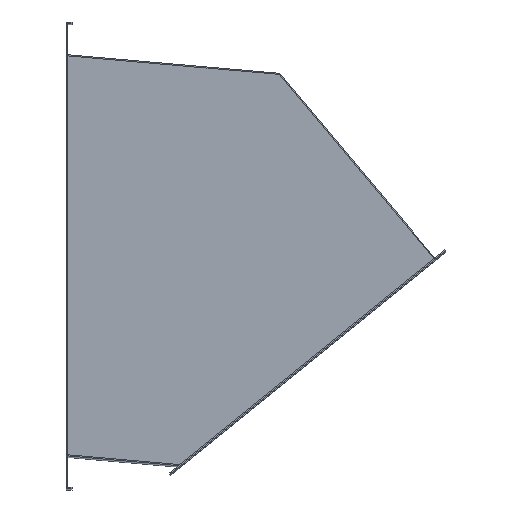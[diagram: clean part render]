
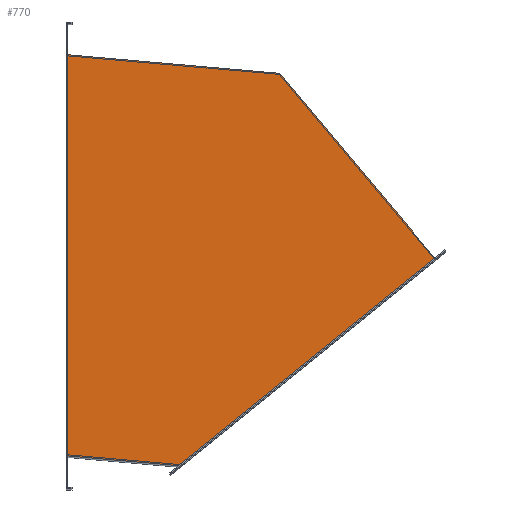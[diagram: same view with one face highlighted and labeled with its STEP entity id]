
A CAD part, top view. The second image highlights one B-rep face of the part: STEP entity #770.
In plain terms, the highlighted planar face has unit normal (0, 0, 1).
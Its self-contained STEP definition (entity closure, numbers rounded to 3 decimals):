
#62=PLANE('',#852);
#100=FACE_OUTER_BOUND('',#152,.T.);
#152=EDGE_LOOP('',(#677,#678,#679,#680,#681));
#206=LINE('',#1181,#284);
#234=LINE('',#1238,#312);
#244=LINE('',#1257,#322);
#245=LINE('',#1259,#323);
#246=LINE('',#1260,#324);
#284=VECTOR('',#978,10.);
#312=VECTOR('',#1024,10.);
#322=VECTOR('',#1044,10.);
#323=VECTOR('',#1045,10.);
#324=VECTOR('',#1046,10.);
#393=VERTEX_POINT('',#1178);
#394=VERTEX_POINT('',#1180);
#413=VERTEX_POINT('',#1235);
#414=VERTEX_POINT('',#1237);
#419=VERTEX_POINT('',#1258);
#478=EDGE_CURVE('',#394,#393,#206,.T.);
#506=EDGE_CURVE('',#414,#413,#234,.T.);
#516=EDGE_CURVE('',#393,#414,#244,.T.);
#517=EDGE_CURVE('',#413,#419,#245,.T.);
#518=EDGE_CURVE('',#419,#394,#246,.T.);
#677=ORIENTED_EDGE('',*,*,#478,.T.);
#678=ORIENTED_EDGE('',*,*,#516,.T.);
#679=ORIENTED_EDGE('',*,*,#506,.T.);
#680=ORIENTED_EDGE('',*,*,#517,.T.);
#681=ORIENTED_EDGE('',*,*,#518,.T.);
#770=ADVANCED_FACE('',(#100),#62,.T.);
#852=AXIS2_PLACEMENT_3D('',#1256,#1042,#1043);
#978=DIRECTION('',(0.,-1.,0.));
#1024=DIRECTION('',(0.777,0.629,0.));
#1042=DIRECTION('center_axis',(0.,0.,1.));
#1043=DIRECTION('ref_axis',(1.,0.,0.));
#1044=DIRECTION('',(0.996,-0.087,0.));
#1045=DIRECTION('',(-0.643,0.766,0.));
#1046=DIRECTION('',(-0.996,0.087,0.));
#1178=CARTESIAN_POINT('',(2.,-357.182,802.));
#1180=CARTESIAN_POINT('',(2.,356.833,802.));
#1181=CARTESIAN_POINT('',(2.,-203.868,802.));
#1235=CARTESIAN_POINT('',(656.,-5.162,802.));
#1237=CARTESIAN_POINT('',(200.,-374.505,802.));
#1238=CARTESIAN_POINT('',(543.476,-96.303,802.));
#1256=CARTESIAN_POINT('Origin',(245.485,5.264,802.));
#1257=CARTESIAN_POINT('',(0.,-357.008,802.));
#1258=CARTESIAN_POINT('',(380.,323.762,802.));
#1259=CARTESIAN_POINT('',(657.286,-6.695,802.));
#1260=CARTESIAN_POINT('',(380.,323.762,802.));
